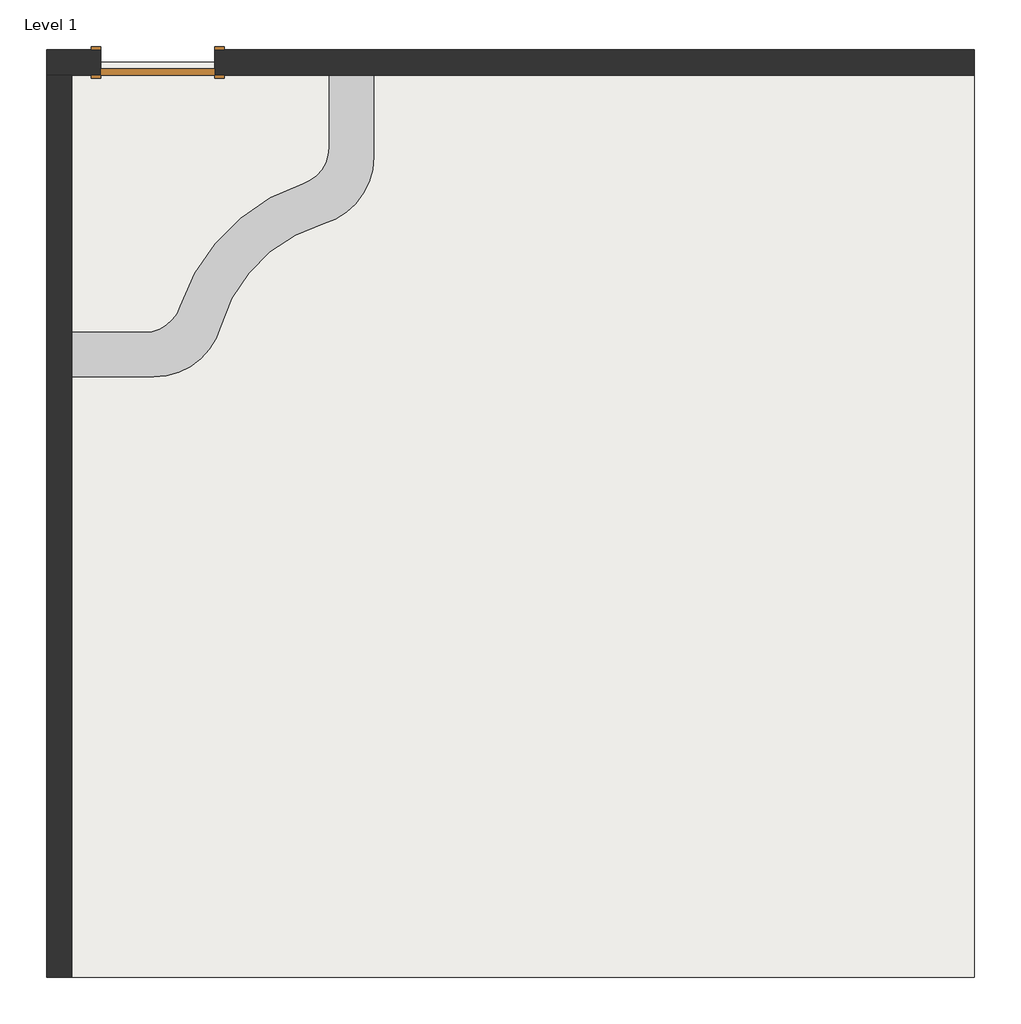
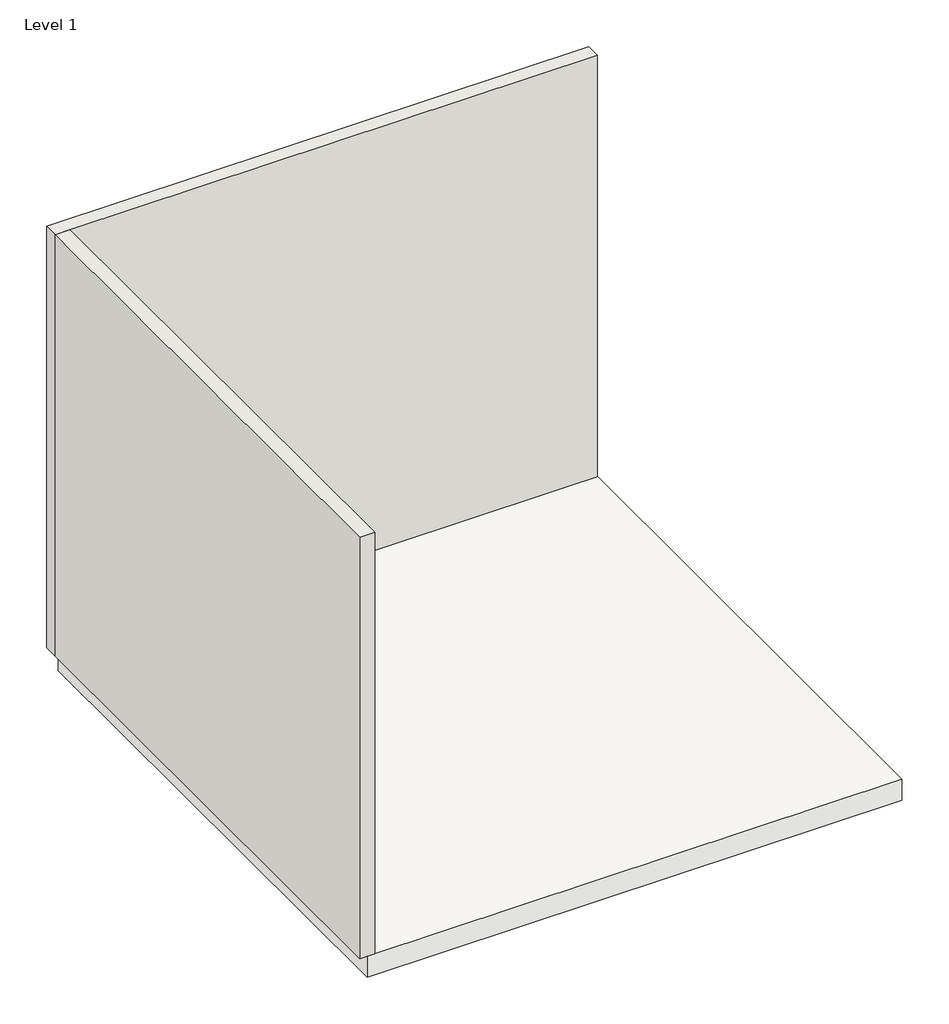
# One storey: 8 proxies, 2 walls, 1 door, 1 slab.
"""IFC4 building model written with IfcOpenShell, lengths in millimetres."""

from ifc_helpers import new_model, si_unit, frame, origin, origin_with_axes, place, context, project, spatial, polyline, outline, extrude, faceted_brep, transform, mapped, element, save
from components import as_specified_67cec5ee, as_specified_8612f211, generic_models_1_generic_models_1_00061b73, generic_models_2_generic_models_2_50785437, generic_models_3_generic_models_3_668906b7, single_flush_719f80de

model = new_model("IFC4")

# Units and contexts
model_context = context("Model", 3, world=origin())
ifc_project = project(units=[si_unit("LENGTHUNIT", "METRE", prefix="MILLI")], contexts=[model_context])

# Site, building, storey
site = spatial("IfcSite", under=ifc_project)
building = spatial("IfcBuilding", under=site)
storey = spatial("IfcBuildingStorey", under=building, Name="Level 1", Elevation=0.0)

# Proxies
placement = place(None, origin())
as_specified_shape = as_specified_67cec5ee(model_context)
element("IfcBuildingElementProxy", 1, Name="Bumper_McCue_CartGuard_1FLX_CG-10_End-Cap : As Specified", ObjectType="Bumper_McCue_CartGuard_1FLX_CG-10_End-Cap : As Specified", at=placement, inside=storey, context=model_context, shape_type="MappedRepresentation", body=[
    mapped(as_specified_shape, transform((-8040.3976545, 8565.5684151, 685.8), x_axis=(0.0, 1.0, 0.0), y_axis=(-1.0, 0.0, 0.0), z_axis=(0.0, 0.0, 1.0))),
])
element("IfcBuildingElementProxy", 2, Name="Bumper_McCue_CartGuard_1FLX_CG-10_End-Cap : As Specified", ObjectType="Bumper_McCue_CartGuard_1FLX_CG-10_End-Cap : As Specified", at=placement, inside=storey, context=model_context, shape_type="MappedRepresentation", body=[
    mapped(as_specified_shape, transform((-8040.3976545, 8565.5684151, 177.8), x_axis=(0.0, 1.0, 0.0), y_axis=(-1.0, 0.0, 0.0), z_axis=(0.0, 0.0, 1.0))),
])
as_specified_2_shape = as_specified_8612f211(model_context)
element("IfcBuildingElementProxy", 3, Name="Bumper_McCue_CartGuard_1FLX_CG-10_End-Cap : As Specified", ObjectType="Bumper_McCue_CartGuard_1FLX_CG-10_End-Cap : As Specified", at=placement, inside=storey, context=model_context, shape_type="MappedRepresentation", body=[
    mapped(as_specified_2_shape, transform((-10262.8976545, 6343.0684151, 685.8), x_axis=(-1.0, 0.0, 0.0), y_axis=(0.0, -1.0, 0.0), z_axis=(0.0, 0.0, 1.0))),
])
element("IfcBuildingElementProxy", 4, Name="Bumper_McCue_CartGuard_1FLX_CG-10_End-Cap : As Specified", ObjectType="Bumper_McCue_CartGuard_1FLX_CG-10_End-Cap : As Specified", at=placement, inside=storey, context=model_context, shape_type="MappedRepresentation", body=[
    mapped(as_specified_2_shape, transform((-10262.8976545, 6343.0684151, 177.8), x_axis=(-1.0, 0.0, 0.0), y_axis=(0.0, -1.0, 0.0), z_axis=(0.0, 0.0, 1.0))),
])
generic_models_1_generic_models_1_shape = generic_models_1_generic_models_1_00061b73(model_context)
element("IfcBuildingElementProxy", 5, Name="Generic Models 1 : Generic Models 1", ObjectType="Generic Models 1 : Generic Models 1", at=placement, inside=storey, context=model_context, shape_type="MappedRepresentation", body=[
    mapped(generic_models_1_generic_models_1_shape, transform((0.0, 0.0, 0.0), x_axis=(1.0, 0.0, 0.0), y_axis=(0.0, 1.0, 0.0), z_axis=(0.0, 0.0, 1.0))),
])
generic_models_2_generic_models_2_shape = generic_models_2_generic_models_2_50785437(model_context)
element("IfcBuildingElementProxy", 6, Name="Generic Models 2 : Generic Models 2", ObjectType="Generic Models 2 : Generic Models 2", at=placement, inside=storey, context=model_context, shape_type="MappedRepresentation", body=[
    mapped(generic_models_2_generic_models_2_shape, transform((0.0, 0.0, 0.0), x_axis=(1.0, 0.0, 0.0), y_axis=(0.0, 1.0, 0.0), z_axis=(0.0, 0.0, 1.0))),
])
generic_models_3_generic_models_3_shape = generic_models_3_generic_models_3_668906b7(model_context)
element("IfcBuildingElementProxy", 7, Name="Generic Models 3 : Generic Models 3", ObjectType="Generic Models 3 : Generic Models 3", at=placement, inside=storey, context=model_context, shape_type="MappedRepresentation", body=[
    mapped(generic_models_3_generic_models_3_shape, transform((0.0, 0.0, 0.0), x_axis=(1.0, 0.0, 0.0), y_axis=(0.0, 1.0, 0.0), z_axis=(0.0, 0.0, 1.0))),
])
element("IfcBuildingElementProxy", 8, Name="Generic Models 4 : Generic Models 3", ObjectType="Generic Models 4 : Generic Models 3", at=placement, inside=storey, context=model_context, shape_type="MappedRepresentation", body=[
    mapped(generic_models_3_generic_models_3_shape, transform((0.0, 0.0, -508.0), x_axis=(1.0, 0.0, 0.0), y_axis=(0.0, 1.0, 0.0), z_axis=(0.0, 0.0, 1.0))),
])

# Door
single_flush_shape = single_flush_719f80de(model_context)
element("IfcDoor", 9, ObjectType="Single-Flush : Showcase Door", at=placement, inside=storey, context=model_context, shape_type="MappedRepresentation", body=[
    mapped(single_flush_shape, transform((-9691.3976545, 8781.4684151, 0.0), x_axis=(1.0, 0.0, 0.0), y_axis=(0.0, 1.0, 0.0), z_axis=(0.0, 0.0, 1.0))),
])

# Slab
element("IfcSlab", 10, ObjectType="Floor", at=placement, inside=storey, context=model_context, shape_type="SweptSolid", body=[
    extrude(outline(polyline([(-3163.5976545, 8781.4684151), (-3163.5976545, 1466.2684151), (-10478.7976545, 1466.2684151), (-10478.7976545, 8781.4684151), (-3163.5976545, 8781.4684151)])), frame((0.0, 0.0, -304.8), z_axis=(0.0, 0.0, 1.0), x_axis=(1.0, 0.0, 0.0)), (0.0, 0.0, 1.0), 304.8),
])

# Walls
element("IfcWall", 11, ObjectType="ShowRoom Wall", at=placement, inside=storey, context=model_context, shape_type="Brep", body=[
    faceted_brep([(-3163.5976545, 8883.0684151, 0.0), (-9234.1976545, 8883.0684151, 0.0), (-9234.1976545, 8883.0684151, 2133.6), (-10148.5976545, 8883.0684151, 2133.6), (-10148.5976545, 8883.0684151, 0.0), (-10580.3976545, 8883.0684151, 0.0), (-10580.3976545, 8883.0684151, 6096.0), (-3163.5976545, 8883.0684151, 6096.0), (-9234.1976545, 8679.8684151, 2133.6), (-9234.1976545, 8679.8684151, 0.0), (-3163.5976545, 8679.8684151, 0.0), (-3163.5976545, 8679.8684151, 6096.0), (-10377.1976545, 8679.8684151, 6096.0), (-10580.3976545, 8679.8684151, 6096.0), (-10580.3976545, 8679.8684151, 0.0), (-10377.1976545, 8679.8684151, 0.0), (-10148.5976545, 8679.8684151, 0.0), (-10148.5976545, 8679.8684151, 2133.6)], [[[0, 1, 2, 3, 4, 5, 6, 7]], [[8, 9, 10, 11, 12, 13, 14, 15, 16, 17]], [[10, 9, 1, 0]], [[16, 15, 14, 5, 4]], [[7, 6, 13, 12, 11]], [[0, 7, 11, 10]], [[6, 5, 14, 13]], [[2, 1, 9, 8]], [[3, 2, 8, 17]], [[4, 3, 17, 16]]]),
])
element("IfcWall", 12, ObjectType="ShowRoom Wall", at=placement, inside=storey, context=model_context, shape_type="SweptSolid", body=[
    extrude(outline(polyline([(-10580.3976545, 1466.2684151), (-10580.3976545, 8679.8684151), (-10377.1976545, 8679.8684151), (-10377.1976545, 1466.2684151), (-10580.3976545, 1466.2684151)])), origin_with_axes(), (0.0, 0.0, 1.0), 6096.0),
])

save(model, "model.ifc")
